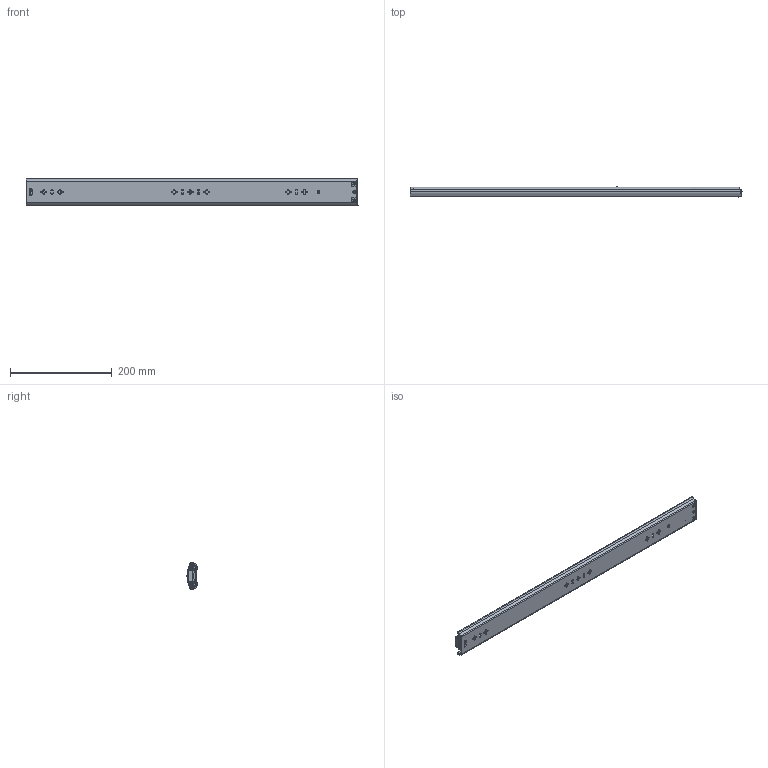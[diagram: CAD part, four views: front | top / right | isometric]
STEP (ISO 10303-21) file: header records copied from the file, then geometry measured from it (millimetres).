
FILE_DESCRIPTION((''),'2;1');
FILE_NAME('1053-HD-650_ASM','2023-11-18T',('jishu015'),(''),'PRO/ENGINEER BY PARAMETRIC TECHNOLOGY CORPORATION, 2010280','PRO/ENGINEER BY PARAMETRIC TECHNOLOGY CORPORATION, 2010280','');
FILE_SCHEMA(('CONFIG_CONTROL_DESIGN'));
Products named in the file (25): 1053-02-18WAIKE_____________; MANIFOLD_SOLID_BREP_51______; MANIFOLD_SOLID_BREP_52______; MANIFOLD_SOLID_BREP_53______; ADMI29141B9BC7PD_ASM_______ASM; ASM0001_______ASM; 53_ASM_______ASM; 1053-02-18XTPJG-DAZHUJIA11__; 1053-02-18XTPJG-5-6GANZHU11___; ZHONGGUIJIAO-11________; 1053-02-18XTPJG-DAZHUJIA-11____ASM; 1053-02-18WAIKE______________ASM; 1053-02-18ZHONGGUI_____________; 53ZHIDIJIAO_____________; 3X6-MAODING______; 1053-02-18ZHONGGUI______________ASM; 1053XIAOZHUJIA-14GE11; 53-5-6GANZHU_____________; 1053XIAOZHUJIA-14GE11_ASM; 1053-02-18NEIGUI_____________; 53BACHA____________; XIAOMAODING______; 3X4MAODING______; 1053-02-18NEIGUI______________ASM; 1053-HD-650_ASM
Assembly tree (103 placements, depth 6):
  1053-HD-650_ASM
    1053-02-18WAIKE______________ASM
      1053-02-18WAIKE_____________
      53_ASM_______ASM
        ASM0001_______ASM
          ADMI29141B9BC7PD_ASM_______ASM
            MANIFOLD_SOLID_BREP_51______
            MANIFOLD_SOLID_BREP_52______
            MANIFOLD_SOLID_BREP_53______
      1053-02-18XTPJG-DAZHUJIA-11____ASM
        1053-02-18XTPJG-DAZHUJIA11__
        1053-02-18XTPJG-5-6GANZHU11___  x36
        ZHONGGUIJIAO-11________  x2
    1053-02-18ZHONGGUI______________ASM
      1053-02-18ZHONGGUI_____________
      53ZHIDIJIAO_____________
      3X6-MAODING______
    1053XIAOZHUJIA-14GE11_ASM
      1053XIAOZHUJIA-14GE11
      53-5-6GANZHU_____________  x44
    1053-02-18NEIGUI______________ASM
      1053-02-18NEIGUI_____________
      53BACHA____________
      XIAOMAODING______
      3X4MAODING______
Bounding box: 652.1 x 19.75 x 53 mm (x, y, z)
Volume: 248758.6 mm3; surface area: 307795.1 mm2
Topology: 95 solids, 95 shells, 3724 faces, 10377 edges, 6504 vertices
Faces by surface type: plane 1635, cylinder 1498, bspline 216, sphere 190, cone 123, torus 60, extrusion 2
Entity records: 133203 total; most frequent: CARTESIAN_POINT 43156, ORIENTED_EDGE 19316, DIRECTION 18043, EDGE_CURVE 9658, VERTEX_POINT 6222, AXIS2_PLACEMENT_3D 6137, VECTOR 5769, LINE 5767
